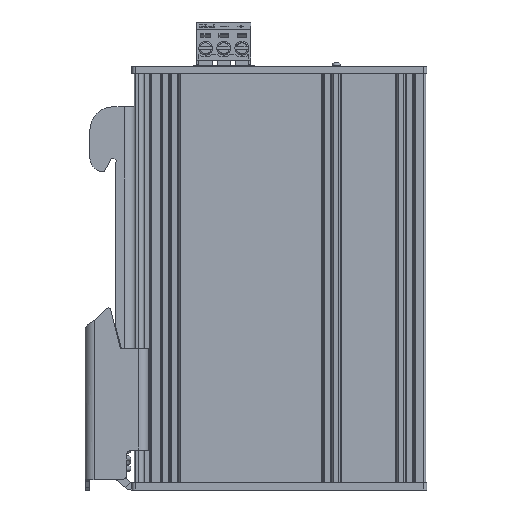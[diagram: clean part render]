
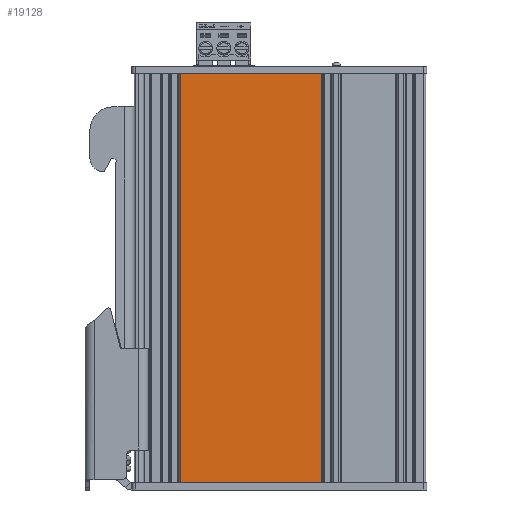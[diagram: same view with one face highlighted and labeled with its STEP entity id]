
A CAD part, front view. The second image highlights one B-rep face of the part: STEP entity #19128.
In plain terms, the highlighted planar face has unit normal (0, -1, 0).
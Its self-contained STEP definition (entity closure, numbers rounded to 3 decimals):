
#16888=CARTESIAN_POINT('',(8.775,-8.5,-43.));
#16889=VERTEX_POINT('',#16888);
#16896=CARTESIAN_POINT('',(-20.975,-8.5,-43.));
#16897=VERTEX_POINT('',#16896);
#16898=CARTESIAN_POINT('',(8.775,-8.5,-43.));
#16899=DIRECTION('',(-1.,-0.,0.));
#16900=VECTOR('',#16899,29.75);
#16901=LINE('',#16898,#16900);
#16902=EDGE_CURVE('',#16889,#16897,#16901,.T.);
#19098=CARTESIAN_POINT('',(-27.125,-8.5,43.));
#19099=DIRECTION('',(0.,-1.,0.));
#19100=DIRECTION('',(1.,0.,0.));
#19101=AXIS2_PLACEMENT_3D('',#19098,#19099,#19100);
#19102=PLANE('',#19101);
#19103=CARTESIAN_POINT('',(8.775,-8.5,43.));
#19104=VERTEX_POINT('',#19103);
#19105=CARTESIAN_POINT('',(-20.975,-8.5,43.));
#19106=VERTEX_POINT('',#19105);
#19107=CARTESIAN_POINT('',(8.775,-8.5,43.));
#19108=DIRECTION('',(-1.,-0.,0.));
#19109=VECTOR('',#19108,29.75);
#19110=LINE('',#19107,#19109);
#19111=EDGE_CURVE('',#19104,#19106,#19110,.T.);
#19112=ORIENTED_EDGE('',*,*,#19111,.T.);
#19113=CARTESIAN_POINT('',(-20.975,-8.5,43.));
#19114=DIRECTION('',(0.,0.,-1.));
#19115=VECTOR('',#19114,86.);
#19116=LINE('',#19113,#19115);
#19117=EDGE_CURVE('',#19106,#16897,#19116,.T.);
#19118=ORIENTED_EDGE('',*,*,#19117,.T.);
#19119=ORIENTED_EDGE('',*,*,#16902,.F.);
#19120=CARTESIAN_POINT('',(8.775,-8.5,43.));
#19121=DIRECTION('',(0.,0.,-1.));
#19122=VECTOR('',#19121,86.);
#19123=LINE('',#19120,#19122);
#19124=EDGE_CURVE('',#19104,#16889,#19123,.T.);
#19125=ORIENTED_EDGE('',*,*,#19124,.F.);
#19126=EDGE_LOOP('',(#19112,#19118,#19119,#19125));
#19127=FACE_BOUND('',#19126,.T.);
#19128=ADVANCED_FACE('',(#19127),#19102,.T.);
